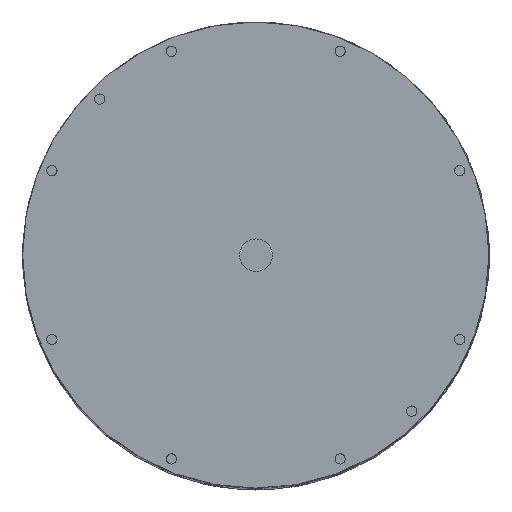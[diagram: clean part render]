
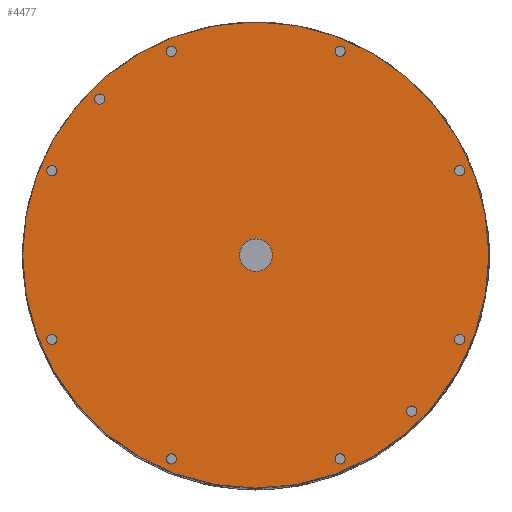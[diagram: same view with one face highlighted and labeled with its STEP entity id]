
A CAD part, top view. The second image highlights one B-rep face of the part: STEP entity #4477.
In plain terms, the highlighted planar face has unit normal (0, 0, 1).
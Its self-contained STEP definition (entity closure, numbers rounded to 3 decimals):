
#62=FACE_BOUND('',#620,.T.);
#63=FACE_BOUND('',#621,.T.);
#64=FACE_BOUND('',#622,.T.);
#65=FACE_BOUND('',#623,.T.);
#66=FACE_BOUND('',#624,.T.);
#67=FACE_BOUND('',#625,.T.);
#68=FACE_BOUND('',#626,.T.);
#69=FACE_BOUND('',#627,.T.);
#70=FACE_BOUND('',#628,.T.);
#71=FACE_BOUND('',#629,.T.);
#72=FACE_BOUND('',#630,.T.);
#202=PLANE('',#4810);
#353=FACE_OUTER_BOUND('',#619,.T.);
#619=EDGE_LOOP('',(#3092));
#620=EDGE_LOOP('',(#3093));
#621=EDGE_LOOP('',(#3094));
#622=EDGE_LOOP('',(#3095));
#623=EDGE_LOOP('',(#3096));
#624=EDGE_LOOP('',(#3097));
#625=EDGE_LOOP('',(#3098));
#626=EDGE_LOOP('',(#3099));
#627=EDGE_LOOP('',(#3100));
#628=EDGE_LOOP('',(#3101));
#629=EDGE_LOOP('',(#3102));
#630=EDGE_LOOP('',(#3103));
#1568=CIRCLE('',#4757,5.25);
#1596=CIRCLE('',#4811,75.);
#1597=CIRCLE('',#4812,1.65);
#1598=CIRCLE('',#4813,1.65);
#1599=CIRCLE('',#4814,1.65);
#1600=CIRCLE('',#4815,1.65);
#1601=CIRCLE('',#4816,1.65);
#1602=CIRCLE('',#4817,1.65);
#1603=CIRCLE('',#4818,1.65);
#1604=CIRCLE('',#4819,1.65);
#1605=CIRCLE('',#4820,1.65);
#1606=CIRCLE('',#4821,1.65);
#1926=VERTEX_POINT('',#6932);
#1974=VERTEX_POINT('',#7057);
#1975=VERTEX_POINT('',#7059);
#1976=VERTEX_POINT('',#7061);
#1977=VERTEX_POINT('',#7063);
#1978=VERTEX_POINT('',#7065);
#1979=VERTEX_POINT('',#7067);
#1980=VERTEX_POINT('',#7069);
#1981=VERTEX_POINT('',#7071);
#1982=VERTEX_POINT('',#7073);
#1983=VERTEX_POINT('',#7075);
#1984=VERTEX_POINT('',#7077);
#2363=EDGE_CURVE('',#1926,#1926,#1568,.T.);
#2413=EDGE_CURVE('',#1974,#1974,#1596,.T.);
#2414=EDGE_CURVE('',#1975,#1975,#1597,.T.);
#2415=EDGE_CURVE('',#1976,#1976,#1598,.T.);
#2416=EDGE_CURVE('',#1977,#1977,#1599,.T.);
#2417=EDGE_CURVE('',#1978,#1978,#1600,.T.);
#2418=EDGE_CURVE('',#1979,#1979,#1601,.T.);
#2419=EDGE_CURVE('',#1980,#1980,#1602,.T.);
#2420=EDGE_CURVE('',#1981,#1981,#1603,.T.);
#2421=EDGE_CURVE('',#1982,#1982,#1604,.T.);
#2422=EDGE_CURVE('',#1983,#1983,#1605,.T.);
#2423=EDGE_CURVE('',#1984,#1984,#1606,.T.);
#3092=ORIENTED_EDGE('',*,*,#2413,.T.);
#3093=ORIENTED_EDGE('',*,*,#2363,.T.);
#3094=ORIENTED_EDGE('',*,*,#2414,.T.);
#3095=ORIENTED_EDGE('',*,*,#2415,.T.);
#3096=ORIENTED_EDGE('',*,*,#2416,.T.);
#3097=ORIENTED_EDGE('',*,*,#2417,.T.);
#3098=ORIENTED_EDGE('',*,*,#2418,.T.);
#3099=ORIENTED_EDGE('',*,*,#2419,.T.);
#3100=ORIENTED_EDGE('',*,*,#2420,.T.);
#3101=ORIENTED_EDGE('',*,*,#2421,.T.);
#3102=ORIENTED_EDGE('',*,*,#2422,.T.);
#3103=ORIENTED_EDGE('',*,*,#2423,.T.);
#4477=ADVANCED_FACE('',(#353,#62,#63,#64,#65,#66,#67,#68,#69,#70,#71,#72),
#202,.T.);
#4757=AXIS2_PLACEMENT_3D('',#6934,#5391,#5392);
#4810=AXIS2_PLACEMENT_3D('',#7056,#5519,#5520);
#4811=AXIS2_PLACEMENT_3D('',#7058,#5521,#5522);
#4812=AXIS2_PLACEMENT_3D('',#7060,#5523,#5524);
#4813=AXIS2_PLACEMENT_3D('',#7062,#5525,#5526);
#4814=AXIS2_PLACEMENT_3D('',#7064,#5527,#5528);
#4815=AXIS2_PLACEMENT_3D('',#7066,#5529,#5530);
#4816=AXIS2_PLACEMENT_3D('',#7068,#5531,#5532);
#4817=AXIS2_PLACEMENT_3D('',#7070,#5533,#5534);
#4818=AXIS2_PLACEMENT_3D('',#7072,#5535,#5536);
#4819=AXIS2_PLACEMENT_3D('',#7074,#5537,#5538);
#4820=AXIS2_PLACEMENT_3D('',#7076,#5539,#5540);
#4821=AXIS2_PLACEMENT_3D('',#7078,#5541,#5542);
#5391=DIRECTION('center_axis',(0.,0.,-1.));
#5392=DIRECTION('ref_axis',(1.,0.,0.));
#5519=DIRECTION('center_axis',(0.,0.,1.));
#5520=DIRECTION('ref_axis',(-1.,0.,0.));
#5521=DIRECTION('center_axis',(0.,0.,1.));
#5522=DIRECTION('ref_axis',(-1.,0.,0.));
#5523=DIRECTION('center_axis',(0.,0.,-1.));
#5524=DIRECTION('ref_axis',(-1.,0.,0.));
#5525=DIRECTION('center_axis',(0.,0.,-1.));
#5526=DIRECTION('ref_axis',(-1.,0.,0.));
#5527=DIRECTION('center_axis',(0.,0.,-1.));
#5528=DIRECTION('ref_axis',(-1.,0.,0.));
#5529=DIRECTION('center_axis',(0.,0.,-1.));
#5530=DIRECTION('ref_axis',(-1.,0.,0.));
#5531=DIRECTION('center_axis',(0.,0.,-1.));
#5532=DIRECTION('ref_axis',(-1.,0.,0.));
#5533=DIRECTION('center_axis',(0.,0.,-1.));
#5534=DIRECTION('ref_axis',(-1.,0.,0.));
#5535=DIRECTION('center_axis',(0.,0.,-1.));
#5536=DIRECTION('ref_axis',(-1.,0.,0.));
#5537=DIRECTION('center_axis',(0.,0.,-1.));
#5538=DIRECTION('ref_axis',(-1.,0.,0.));
#5539=DIRECTION('center_axis',(0.,0.,-1.));
#5540=DIRECTION('ref_axis',(-1.,0.,0.));
#5541=DIRECTION('center_axis',(0.,0.,-1.));
#5542=DIRECTION('ref_axis',(-1.,0.,0.));
#6932=CARTESIAN_POINT('',(-5.184,-0.058,8.));
#6934=CARTESIAN_POINT('Origin',(0.066,-0.058,
8.));
#7056=CARTESIAN_POINT('Origin',(0.,0.,8.));
#7057=CARTESIAN_POINT('',(-75.,0.,8.));
#7058=CARTESIAN_POINT('Origin',(0.,0.,8.));
#7059=CARTESIAN_POINT('',(-28.821,65.595,8.));
#7060=CARTESIAN_POINT('Origin',(-27.171,65.595,8.));
#7061=CARTESIAN_POINT('',(-51.855,50.205,8.));
#7062=CARTESIAN_POINT('Origin',(-50.205,50.205,8.));
#7063=CARTESIAN_POINT('',(-28.821,-65.595,8.));
#7064=CARTESIAN_POINT('Origin',(-27.171,-65.595,8.));
#7065=CARTESIAN_POINT('',(63.945,-27.171,8.));
#7066=CARTESIAN_POINT('Origin',(65.595,-27.171,8.));
#7067=CARTESIAN_POINT('',(48.555,-50.205,8.));
#7068=CARTESIAN_POINT('Origin',(50.205,-50.205,8.));
#7069=CARTESIAN_POINT('',(-67.245,27.171,8.));
#7070=CARTESIAN_POINT('Origin',(-65.595,27.171,8.));
#7071=CARTESIAN_POINT('',(25.521,-65.595,8.));
#7072=CARTESIAN_POINT('Origin',(27.171,-65.595,8.));
#7073=CARTESIAN_POINT('',(25.521,65.595,8.));
#7074=CARTESIAN_POINT('Origin',(27.171,65.595,8.));
#7075=CARTESIAN_POINT('',(-67.245,-27.171,8.));
#7076=CARTESIAN_POINT('Origin',(-65.595,-27.171,8.));
#7077=CARTESIAN_POINT('',(63.945,27.171,8.));
#7078=CARTESIAN_POINT('Origin',(65.595,27.171,8.));
